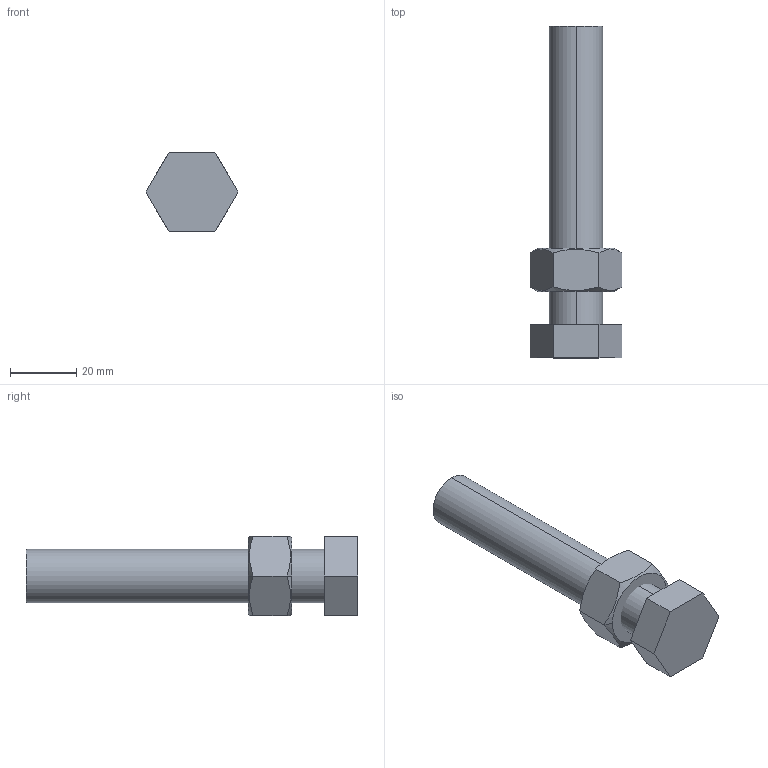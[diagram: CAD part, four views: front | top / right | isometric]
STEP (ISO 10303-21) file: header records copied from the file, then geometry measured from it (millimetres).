
FILE_DESCRIPTION (( 'STEP AP203' ), '1' );
FILE_NAME ('PP-M16.STEP', '2011-05-20T19:05:04', ( 'Usuario' ), ( '' ), 'SwSTEP 2.0', 'SolidWorks 2011', '' );
FILE_SCHEMA (( 'CONFIG_CONTROL_DESIGN' ));
Length unit declared in the file: millimetre
Products named in the file (3): 12.50023; PP-M16; 11.50006
Assembly tree (2 placements, depth 2):
  PP-M16
    11.50006
    12.50023
Bounding box: 27.71 x 100 x 24 mm (x, y, z)
Volume: 27496 mm3; surface area: 8597.3 mm2
Topology: 2 solids, 2 shells, 29 faces, 68 edges, 44 vertices
Faces by surface type: plane 17, cone 8, cylinder 4
Entity records: 1247 total; most frequent: CARTESIAN_POINT 278, DIRECTION 144, ORIENTED_EDGE 136, EDGE_CURVE 68, AXIS2_PLACEMENT_3D 54, VERTEX_POINT 44, LINE 36, VECTOR 36
